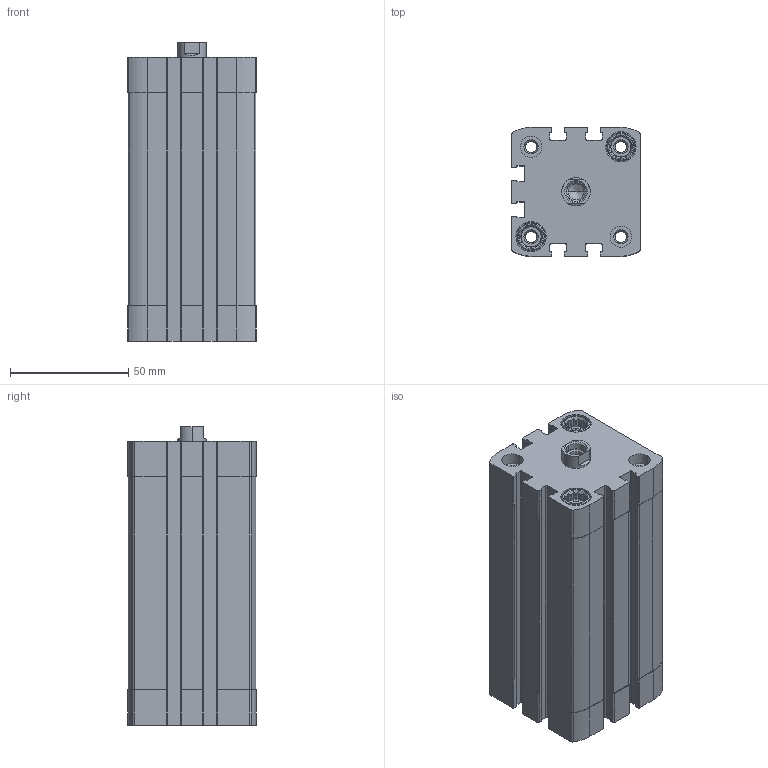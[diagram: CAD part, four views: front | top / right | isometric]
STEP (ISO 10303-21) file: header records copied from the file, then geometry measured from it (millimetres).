
FILE_DESCRIPTION (( 'STEP AP203' ), '1' );
FILE_NAME ('CCN40-75F.STEP', '2017-03-29T18:24:24', ( '' ), ( '' ), 'SwSTEP 2.0', 'SolidWorks 2016', '' );
FILE_SCHEMA (( 'CONFIG_CONTROL_DESIGN' ));
Length unit declared in the file: millimetre
Products named in the file (3): CCN-75---(Z); CCN-75-(KS); CCN40-75F
Assembly tree (2 placements, depth 2):
  CCN40-75F
    CCN-75---(Z)
    CCN-75-(KS)
Bounding box: 54.5 x 54.5 x 126.1 mm (x, y, z)
Volume: 222908.3 mm3; surface area: 72726.8 mm2
Topology: 2 solids, 2 shells, 479 faces, 1302 edges, 857 vertices
Faces by surface type: plane 267, cylinder 170, cone 42
Entity records: 15629 total; most frequent: CARTESIAN_POINT 2935, DIRECTION 2660, ORIENTED_EDGE 2600, EDGE_CURVE 1300, AXIS2_PLACEMENT_3D 974, VERTEX_POINT 857, LINE 712, VECTOR 712
